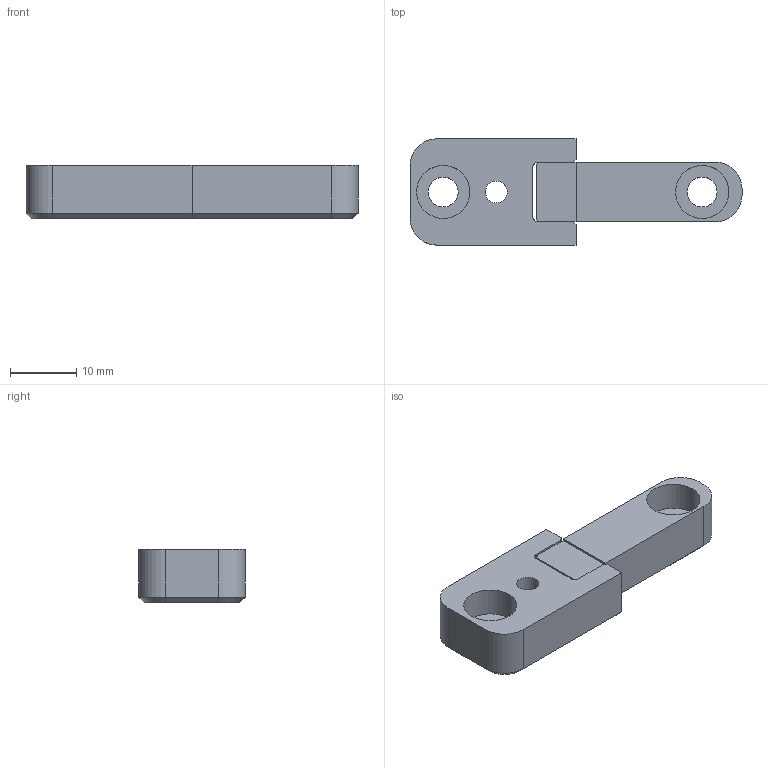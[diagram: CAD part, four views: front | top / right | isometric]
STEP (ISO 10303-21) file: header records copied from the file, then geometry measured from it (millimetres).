
FILE_DESCRIPTION(('STEP AP214'),'1');
FILE_NAME('D:/Onlineshop/Shop/Produkte/Feinzentrierung/hokus-feinzentrierung-flach-8x25.stp','2026-04-01T14:43:49',(' '),(' '),'Spatial InterOp 3D',' ',' ');
FILE_SCHEMA(('automotive_design'));
Length unit declared in the file: millimetre
Products named in the file (1): hokus-feinzentrierung-flach-8x25
Bounding box: 50 x 16 x 8 mm (x, y, z)
Volume: 4156.8 mm3; surface area: 2802.3 mm2
Topology: 2 solids, 2 shells, 52 faces, 130 edges, 84 vertices
Faces by surface type: plane 32, cylinder 16, cone 4
Entity records: 2019 total; most frequent: DIRECTION 276, CARTESIAN_POINT 269, ORIENTED_EDGE 260, EDGE_CURVE 130, LINE 94, VECTOR 94, AXIS2_PLACEMENT_3D 91, VERTEX_POINT 84
